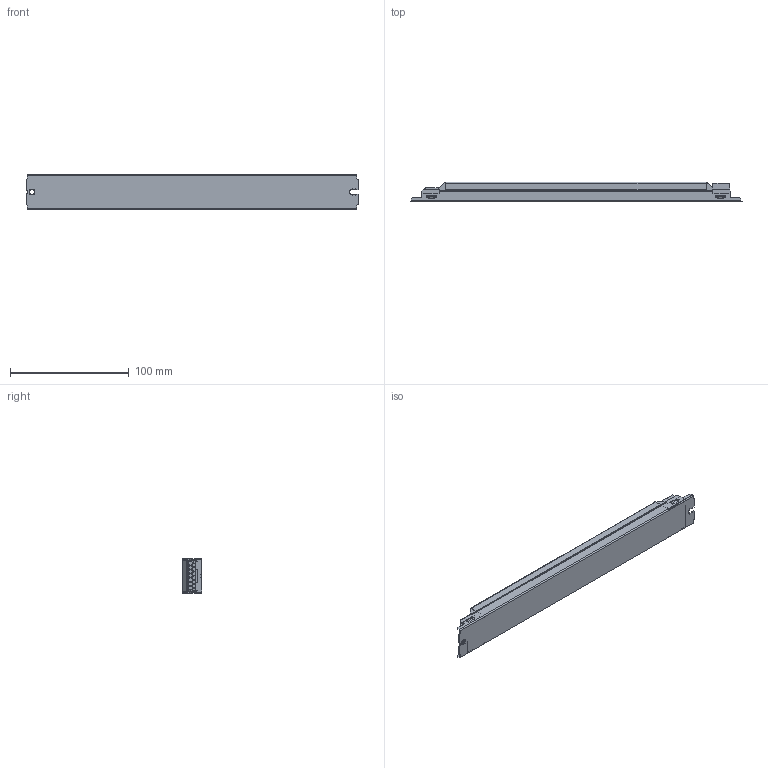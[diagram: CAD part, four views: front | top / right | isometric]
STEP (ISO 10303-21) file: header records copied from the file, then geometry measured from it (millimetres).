
FILE_DESCRIPTION (( 'STEP AP214' ), '1' );
FILE_NAME ('4181832swm000.step', '2020-01-08T07:17:05', ( 'OSRAM' ), ( 'OSRAM' ), 'SwSTEP 2.0', 'SolidWorks 2017', '' );
FILE_SCHEMA (( 'AUTOMOTIVE_DESIGN' ));
Length unit declared in the file: millimetre
Products named in the file (1): 4181832swm000
Bounding box: 279 x 16.4 x 30 mm (x, y, z)
Volume: 117397.4 mm3; surface area: 28221.4 mm2
Topology: 1 solids, 1 shells, 556 faces, 1576 edges, 1018 vertices
Faces by surface type: plane 362, cylinder 178, bspline 12, sphere 4
Entity records: 23965 total; most frequent: CARTESIAN_POINT 4104, ORIENTED_EDGE 3144, DIRECTION 2795, EDGE_CURVE 1572, VECTOR 1121, LINE 1121, VERTEX_POINT 1018, AXIS2_PLACEMENT_3D 837
